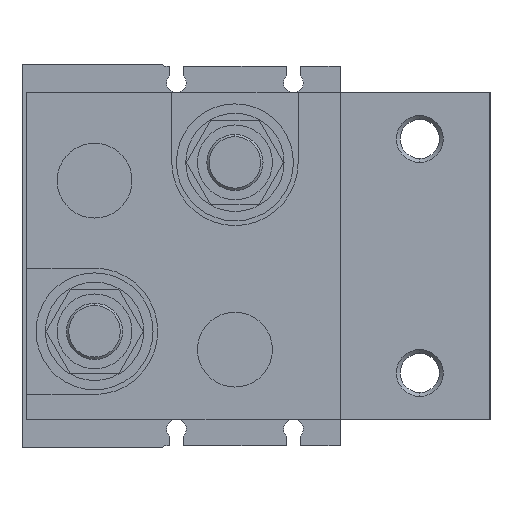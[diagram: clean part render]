
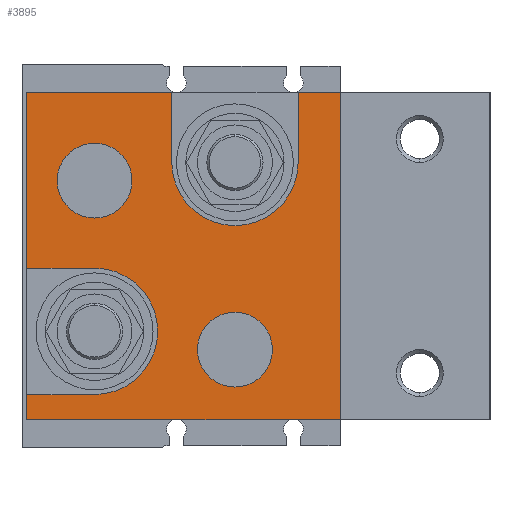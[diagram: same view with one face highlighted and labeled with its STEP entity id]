
A CAD part, left-side view. The second image highlights one B-rep face of the part: STEP entity #3895.
In plain terms, the highlighted planar face has unit normal (-1, 0, 0) as drawn and (1, 0, 0) by its records, which use the part's own axes.
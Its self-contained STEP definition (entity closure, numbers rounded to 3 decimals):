
#5 = VERTEX_POINT ( 'NONE', #4327 ) ;
#18 = CARTESIAN_POINT ( 'NONE',  ( 116., -25., -20. ) ) ;
#87 = DIRECTION ( 'NONE',  ( 1., 0., 0. ) ) ;
#154 = CARTESIAN_POINT ( 'NONE',  ( 116., -34., 35. ) ) ;
#181 = CARTESIAN_POINT ( 'NONE',  ( 116., -11.5, 20. ) ) ;
#223 = CARTESIAN_POINT ( 'NONE',  ( 116., -66., -35. ) ) ;
#274 = CARTESIAN_POINT ( 'NONE',  ( 116., -25., -20. ) ) ;
#280 = EDGE_CURVE ( 'NONE', #1640, #879, #981, .T. ) ;
#412 = CARTESIAN_POINT ( 'NONE',  ( 116., 18.5, 29.6 ) ) ;
#415 = ORIENTED_EDGE ( 'NONE', *, *, #3330, .T. ) ;
#447 = EDGE_CURVE ( 'NONE', #2686, #1075, #4078, .T. ) ;
#452 = ORIENTED_EDGE ( 'NONE', *, *, #1062, .T. ) ;
#462 = VERTEX_POINT ( 'NONE', #1885 ) ;
#472 = LINE ( 'NONE', #4290, #827 ) ;
#487 = EDGE_LOOP ( 'NONE', ( #1249, #4464, #1661, #4258, #2704, #4142, #452, #1432, #415, #737, #4775, #3672 ) ) ;
#500 = CARTESIAN_POINT ( 'NONE',  ( 116., 2., -35. ) ) ;
#563 = DIRECTION ( 'NONE',  ( 0., 0., 1. ) ) ;
#566 = LINE ( 'NONE', #1389, #1870 ) ;
#612 = LINE ( 'NONE', #223, #1526 ) ;
#644 = VERTEX_POINT ( 'NONE', #1958 ) ;
#687 = CARTESIAN_POINT ( 'NONE',  ( 116., 33., 2.6 ) ) ;
#737 = ORIENTED_EDGE ( 'NONE', *, *, #3257, .T. ) ;
#770 = CARTESIAN_POINT ( 'NONE',  ( 116., 18.5, -8.1 ) ) ;
#783 = CIRCLE ( 'NONE', #1034, 13.5 ) ;
#819 = VECTOR ( 'NONE', #4522, 1000. ) ;
#827 = VECTOR ( 'NONE', #1552, 1000. ) ;
#837 = EDGE_CURVE ( 'NONE', #3867, #1640, #2720, .T. ) ;
#878 = LINE ( 'NONE', #4848, #5083 ) ;
#879 = VERTEX_POINT ( 'NONE', #18 ) ;
#886 = AXIS2_PLACEMENT_3D ( 'NONE', #1512, #4655, #1929 ) ;
#981 = CIRCLE ( 'NONE', #2341, 13.5 ) ;
#1028 = VERTEX_POINT ( 'NONE', #2525 ) ;
#1034 = AXIS2_PLACEMENT_3D ( 'NONE', #2231, #3784, #4194 ) ;
#1062 = EDGE_CURVE ( 'NONE', #3384, #5, #4865, .T. ) ;
#1075 = VERTEX_POINT ( 'NONE', #3352 ) ;
#1088 = ORIENTED_EDGE ( 'NONE', *, *, #447, .F. ) ;
#1249 = ORIENTED_EDGE ( 'NONE', *, *, #837, .F. ) ;
#1260 = LINE ( 'NONE', #2816, #1908 ) ;
#1363 = EDGE_CURVE ( 'NONE', #2471, #2551, #472, .T. ) ;
#1389 = CARTESIAN_POINT ( 'NONE',  ( 116., -66., -35. ) ) ;
#1408 = DIRECTION ( 'NONE',  ( 0., 1., 0. ) ) ;
#1421 = EDGE_LOOP ( 'NONE', ( #3369, #1924 ) ) ;
#1432 = ORIENTED_EDGE ( 'NONE', *, *, #2306, .T. ) ;
#1498 = CARTESIAN_POINT ( 'NONE',  ( 116., 2., -20. ) ) ;
#1512 = CARTESIAN_POINT ( 'NONE',  ( 116., -11.5, 20. ) ) ;
#1526 = VECTOR ( 'NONE', #1408, 1000. ) ;
#1552 = DIRECTION ( 'NONE',  ( 0., 0., 1. ) ) ;
#1614 = DIRECTION ( 'NONE',  ( 0., -1., 0. ) ) ;
#1621 = FACE_BOUND ( 'NONE', #1749, .T. ) ;
#1640 = VERTEX_POINT ( 'NONE', #1498 ) ;
#1661 = ORIENTED_EDGE ( 'NONE', *, *, #1363, .T. ) ;
#1667 = CARTESIAN_POINT ( 'NONE',  ( 116., -11.5, 28. ) ) ;
#1681 = DIRECTION ( 'NONE',  ( 1., 0., 0. ) ) ;
#1701 = FACE_BOUND ( 'NONE', #1421, .T. ) ;
#1738 = CARTESIAN_POINT ( 'NONE',  ( 116., 33., 29.6 ) ) ;
#1749 = EDGE_LOOP ( 'NONE', ( #2373, #1088 ) ) ;
#1870 = VECTOR ( 'NONE', #3688, 1000. ) ;
#1885 = CARTESIAN_POINT ( 'NONE',  ( 116., -34., 35. ) ) ;
#1908 = VECTOR ( 'NONE', #4005, 1000. ) ;
#1924 = ORIENTED_EDGE ( 'NONE', *, *, #2698, .F. ) ;
#1929 = DIRECTION ( 'NONE',  ( 0., 0., -1. ) ) ;
#1958 = CARTESIAN_POINT ( 'NONE',  ( 116., 18.5, 2.6 ) ) ;
#1997 = DIRECTION ( 'NONE',  ( 1., 0., 0. ) ) ;
#2036 = EDGE_CURVE ( 'NONE', #3384, #4417, #878, .T. ) ;
#2073 = DIRECTION ( 'NONE',  ( 0., 0., -1. ) ) ;
#2090 = LINE ( 'NONE', #154, #819 ) ;
#2231 = CARTESIAN_POINT ( 'NONE',  ( 116., 18.5, 16.1 ) ) ;
#2252 = AXIS2_PLACEMENT_3D ( 'NONE', #3593, #87, #4003 ) ;
#2279 = CIRCLE ( 'NONE', #2950, 8. ) ;
#2306 = EDGE_CURVE ( 'NONE', #5, #462, #2401, .T. ) ;
#2340 = VERTEX_POINT ( 'NONE', #770 ) ;
#2341 = AXIS2_PLACEMENT_3D ( 'NONE', #2631, #4205, #5043 ) ;
#2358 = DIRECTION ( 'NONE',  ( 0., 0., 1. ) ) ;
#2373 = ORIENTED_EDGE ( 'NONE', *, *, #3331, .F. ) ;
#2377 = CARTESIAN_POINT ( 'NONE',  ( 116., 18.5, -16.1 ) ) ;
#2385 = CARTESIAN_POINT ( 'NONE',  ( 116., 2., -35. ) ) ;
#2401 = LINE ( 'NONE', #3435, #3171 ) ;
#2471 = VERTEX_POINT ( 'NONE', #2477 ) ;
#2477 = CARTESIAN_POINT ( 'NONE',  ( 116., 33., -35. ) ) ;
#2498 = CARTESIAN_POINT ( 'NONE',  ( 116., 33., -35. ) ) ;
#2525 = CARTESIAN_POINT ( 'NONE',  ( 116., 18.5, -24.1 ) ) ;
#2551 = VERTEX_POINT ( 'NONE', #687 ) ;
#2552 = DIRECTION ( 'NONE',  ( 0., 0., -1. ) ) ;
#2631 = CARTESIAN_POINT ( 'NONE',  ( 116., -11.5, -20. ) ) ;
#2666 = EDGE_CURVE ( 'NONE', #3867, #2471, #612, .T. ) ;
#2686 = VERTEX_POINT ( 'NONE', #1667 ) ;
#2698 = EDGE_CURVE ( 'NONE', #2340, #1028, #3329, .T. ) ;
#2703 = VECTOR ( 'NONE', #2358, 1000. ) ;
#2704 = ORIENTED_EDGE ( 'NONE', *, *, #5021, .F. ) ;
#2720 = LINE ( 'NONE', #2385, #2703 ) ;
#2816 = CARTESIAN_POINT ( 'NONE',  ( 116., 18.5, 2.6 ) ) ;
#2821 = CIRCLE ( 'NONE', #4572, 8. ) ;
#2881 = VECTOR ( 'NONE', #563, 1000. ) ;
#2950 = AXIS2_PLACEMENT_3D ( 'NONE', #181, #1681, #2552 ) ;
#3158 = PLANE ( 'NONE',  #3354 ) ;
#3171 = VECTOR ( 'NONE', #3773, 1000. ) ;
#3182 = DIRECTION ( 'NONE',  ( 0., 1., 0. ) ) ;
#3257 = EDGE_CURVE ( 'NONE', #4977, #3725, #566, .T. ) ;
#3259 = CARTESIAN_POINT ( 'NONE',  ( 116., -34., -35. ) ) ;
#3329 = CIRCLE ( 'NONE', #2252, 8. ) ;
#3330 = EDGE_CURVE ( 'NONE', #462, #4977, #2090, .T. ) ;
#3331 = EDGE_CURVE ( 'NONE', #1075, #2686, #2279, .T. ) ;
#3352 = CARTESIAN_POINT ( 'NONE',  ( 116., -11.5, 12. ) ) ;
#3354 = AXIS2_PLACEMENT_3D ( 'NONE', #3955, #1997, #3182 ) ;
#3369 = ORIENTED_EDGE ( 'NONE', *, *, #4431, .F. ) ;
#3384 = VERTEX_POINT ( 'NONE', #1738 ) ;
#3435 = CARTESIAN_POINT ( 'NONE',  ( 116., 33., 35. ) ) ;
#3568 = DIRECTION ( 'NONE',  ( 1., 0., 0. ) ) ;
#3593 = CARTESIAN_POINT ( 'NONE',  ( 116., 18.5, -16.1 ) ) ;
#3672 = ORIENTED_EDGE ( 'NONE', *, *, #280, .F. ) ;
#3688 = DIRECTION ( 'NONE',  ( 0., 1., 0. ) ) ;
#3725 = VERTEX_POINT ( 'NONE', #4700 ) ;
#3773 = DIRECTION ( 'NONE',  ( 0., -1., 0. ) ) ;
#3784 = DIRECTION ( 'NONE',  ( 1., 0., 0. ) ) ;
#3790 = LINE ( 'NONE', #274, #3892 ) ;
#3867 = VERTEX_POINT ( 'NONE', #500 ) ;
#3892 = VECTOR ( 'NONE', #4595, 1000. ) ;
#3895 = ADVANCED_FACE ( 'NONE', ( #1701, #1621, #4709 ), #3158, .T. ) ;
#3955 = CARTESIAN_POINT ( 'NONE',  ( 116., 0., 0. ) ) ;
#4003 = DIRECTION ( 'NONE',  ( 0., 0., -1. ) ) ;
#4005 = DIRECTION ( 'NONE',  ( 0., 1., 0. ) ) ;
#4078 = CIRCLE ( 'NONE', #886, 8. ) ;
#4142 = ORIENTED_EDGE ( 'NONE', *, *, #2036, .F. ) ;
#4194 = DIRECTION ( 'NONE',  ( 0., 0., -1. ) ) ;
#4205 = DIRECTION ( 'NONE',  ( 1., 0., 0. ) ) ;
#4258 = ORIENTED_EDGE ( 'NONE', *, *, #4939, .F. ) ;
#4290 = CARTESIAN_POINT ( 'NONE',  ( 116., 33., -35. ) ) ;
#4327 = CARTESIAN_POINT ( 'NONE',  ( 116., 33., 35. ) ) ;
#4417 = VERTEX_POINT ( 'NONE', #412 ) ;
#4431 = EDGE_CURVE ( 'NONE', #1028, #2340, #2821, .T. ) ;
#4464 = ORIENTED_EDGE ( 'NONE', *, *, #2666, .T. ) ;
#4522 = DIRECTION ( 'NONE',  ( 0., 0., -1. ) ) ;
#4572 = AXIS2_PLACEMENT_3D ( 'NONE', #2377, #3568, #2073 ) ;
#4595 = DIRECTION ( 'NONE',  ( 0., 0., -1. ) ) ;
#4655 = DIRECTION ( 'NONE',  ( 1., 0., 0. ) ) ;
#4700 = CARTESIAN_POINT ( 'NONE',  ( 116., -25., -35. ) ) ;
#4709 = FACE_OUTER_BOUND ( 'NONE', #487, .T. ) ;
#4720 = EDGE_CURVE ( 'NONE', #879, #3725, #3790, .T. ) ;
#4775 = ORIENTED_EDGE ( 'NONE', *, *, #4720, .F. ) ;
#4848 = CARTESIAN_POINT ( 'NONE',  ( 116., 33., 29.6 ) ) ;
#4865 = LINE ( 'NONE', #2498, #2881 ) ;
#4939 = EDGE_CURVE ( 'NONE', #644, #2551, #1260, .T. ) ;
#4977 = VERTEX_POINT ( 'NONE', #3259 ) ;
#5021 = EDGE_CURVE ( 'NONE', #4417, #644, #783, .T. ) ;
#5043 = DIRECTION ( 'NONE',  ( 0., 0., -1. ) ) ;
#5083 = VECTOR ( 'NONE', #1614, 1000. ) ;
